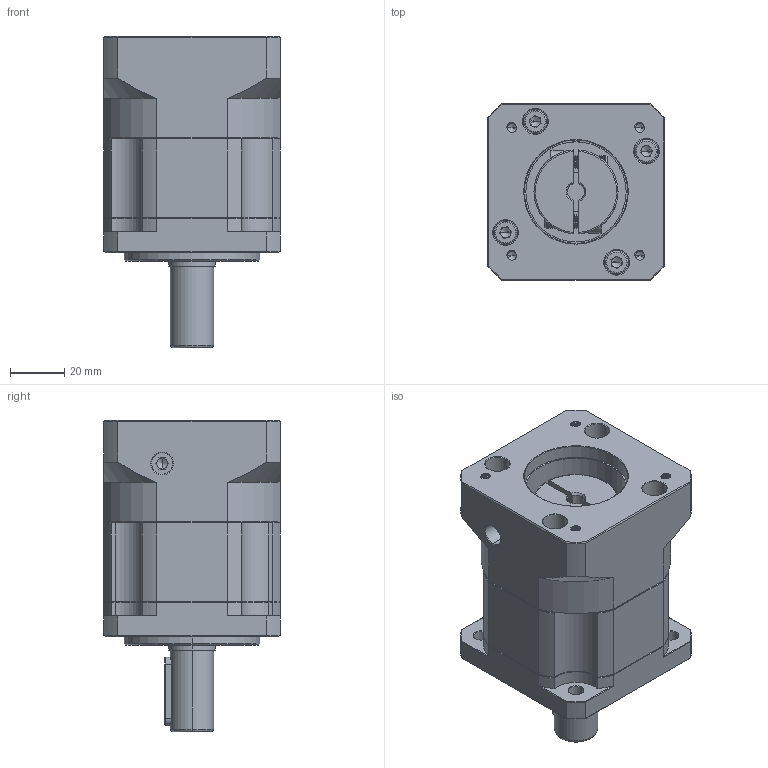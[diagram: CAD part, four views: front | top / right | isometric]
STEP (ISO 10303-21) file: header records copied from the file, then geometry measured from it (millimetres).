
FILE_DESCRIPTION (( 'STEP AP214' ), '1' );
FILE_NAME ('ZB060-D16-L1-P2-6.35-38.1-47.14X47.14-M4.step', '2023-08-16T07:05:09', ( '' ), ( '' ), 'SwSTEP 2.0', 'SolidWorks 2016', '' );
FILE_SCHEMA (( 'AUTOMOTIVE_DESIGN' ));
Length unit declared in the file: millimetre
Products named in the file (1): ZB060-D16-L1-P2-6.35-38.1-47.14X47.14-M4
Bounding box: 65 x 65 x 115 mm (x, y, z)
Volume: 275740.7 mm3; surface area: 54516.5 mm2
Topology: 6 solids, 6 shells, 2154 faces, 5800 edges, 3734 vertices
Faces by surface type: plane 1059, bspline 397, cylinder 381, cone 283, torus 34
Entity records: 114832 total; most frequent: CARTESIAN_POINT 40217, ORIENTED_EDGE 11540, DIRECTION 9090, EDGE_CURVE 5770, VERTEX_POINT 3734, LINE 3636, VECTOR 3636, AXIS2_PLACEMENT_3D 2727
